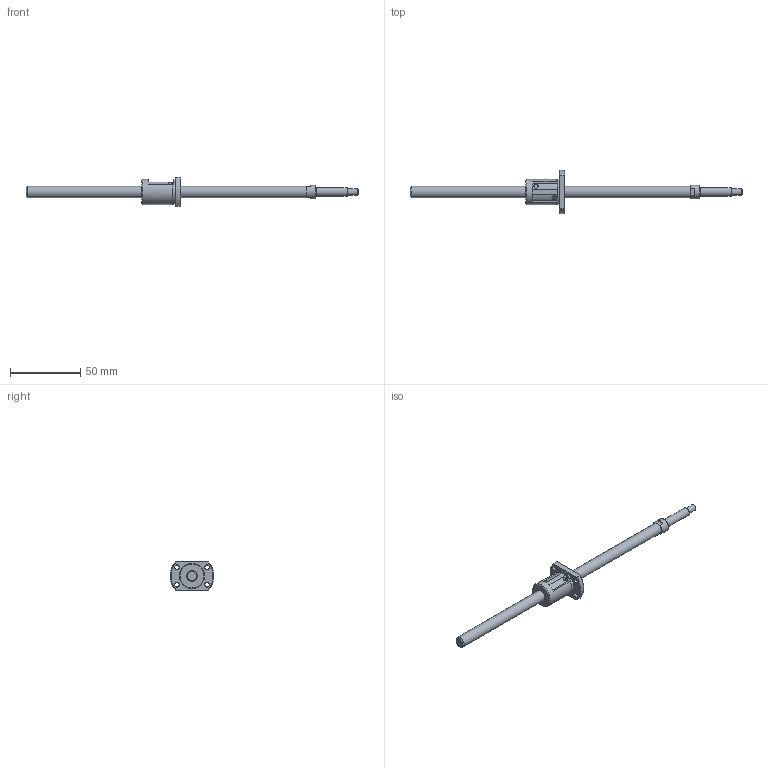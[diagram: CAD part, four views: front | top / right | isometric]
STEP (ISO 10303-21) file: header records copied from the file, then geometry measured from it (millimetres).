
FILE_DESCRIPTION(/* description */ ('STEP AP214'),/* implementation_level */ '2;1');
FILE_NAME(/* name */ 'SRT0805-196R237C7A0X(82.5Processing)',/* time_stamp */ '2026-08-04T20:02:30+02:00',/* author */ ('License CC BY-ND 4.0'),/* organization */ ('CADENAS'),/* preprocessor_version */ 'ST-DEVELOPER v20',/* originating_system */ 'PARTsolutions',/* authorisation */ ' ');
FILE_SCHEMA (('AUTOMOTIVE_DESIGN {1 0 10303 214 3 1 1}'));
Length unit declared in the file: millimetre
Products named in the file (3): SRT0805-196R237C7A0X(82.5Processing); SRT0805-196R270ACt7Processing41Shaft; SRT0805Nut
Assembly tree (2 placements, depth 2):
  SRT0805-196R237C7A0X(82.5Processing)
    SRT0805-196R270ACt7Processing41Shaft
    SRT0805Nut
Bounding box: 237 x 30.91 x 20 mm (x, y, z)
Volume: 17676.2 mm3; surface area: 9434.5 mm2
Topology: 2 solids, 2 shells, 70 faces, 166 edges, 105 vertices
Faces by surface type: plane 43, cylinder 15, cone 11, torus 1
Full cylindrical faces by diameter (mm): 3.4 x4, 4.5 x1, 6 x1, 8 x2, 9.5 x1, 17.7 x1, 18 x1
Entity records: 1955 total; most frequent: CARTESIAN_POINT 351, DIRECTION 332, ORIENTED_EDGE 276, EDGE_CURVE 138, AXIS2_PLACEMENT_3D 131, EDGE_LOOP 104, FACE_BOUND 104, VERTEX_POINT 96
